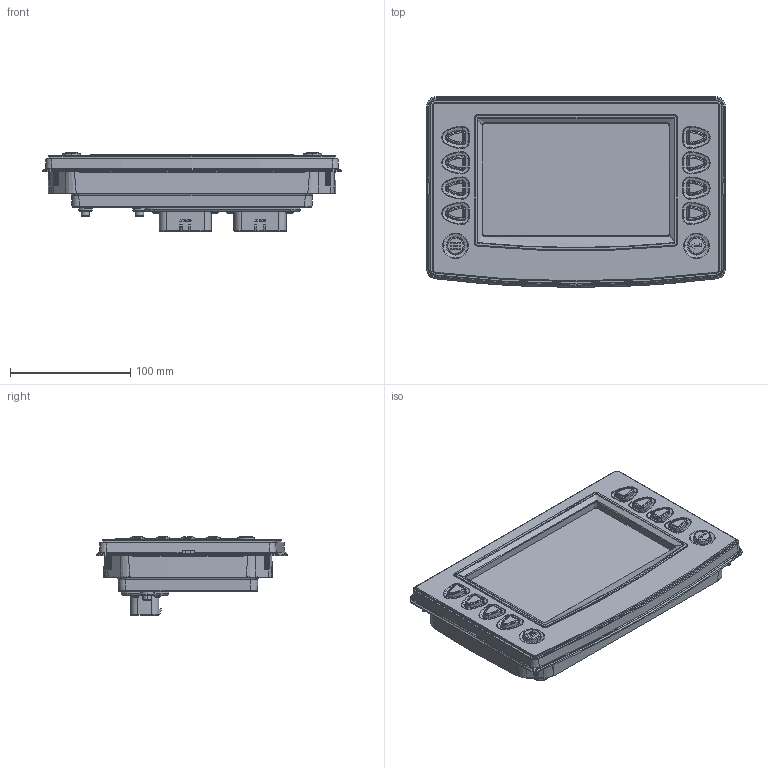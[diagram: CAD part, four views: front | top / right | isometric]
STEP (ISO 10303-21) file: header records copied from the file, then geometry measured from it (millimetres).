
FILE_DESCRIPTION (( 'STEP AP203' ), '1' );
FILE_NAME ('Murphy STD PV700.STEP', '2012-04-26T19:11:45', ( '' ), ( '' ), 'SwSTEP 2.0', 'SolidWorks 2011', '' );
FILE_SCHEMA (( 'CONFIG_CONTROL_DESIGN' ));
Products named in the file (1): Murphy STD PV700
Bounding box: 247.82 x 158.33 x 65.5 mm (x, y, z)
Surface area: 169280.6 mm2 (no closed solid volume)
Topology: 0 solids, 129 shells, 1598 faces, 7467 edges, 5865 vertices
Faces by surface type: cylinder 633, plane 440, bspline 202, cone 158, torus 149, sphere 16
Entity records: 104164 total; most frequent: CARTESIAN_POINT 49195, ORIENTED_EDGE 10699, DIRECTION 10299, EDGE_CURVE 7467, VERTEX_POINT 5865, LINE 3753, VECTOR 3753, AXIS2_PLACEMENT_3D 3273
